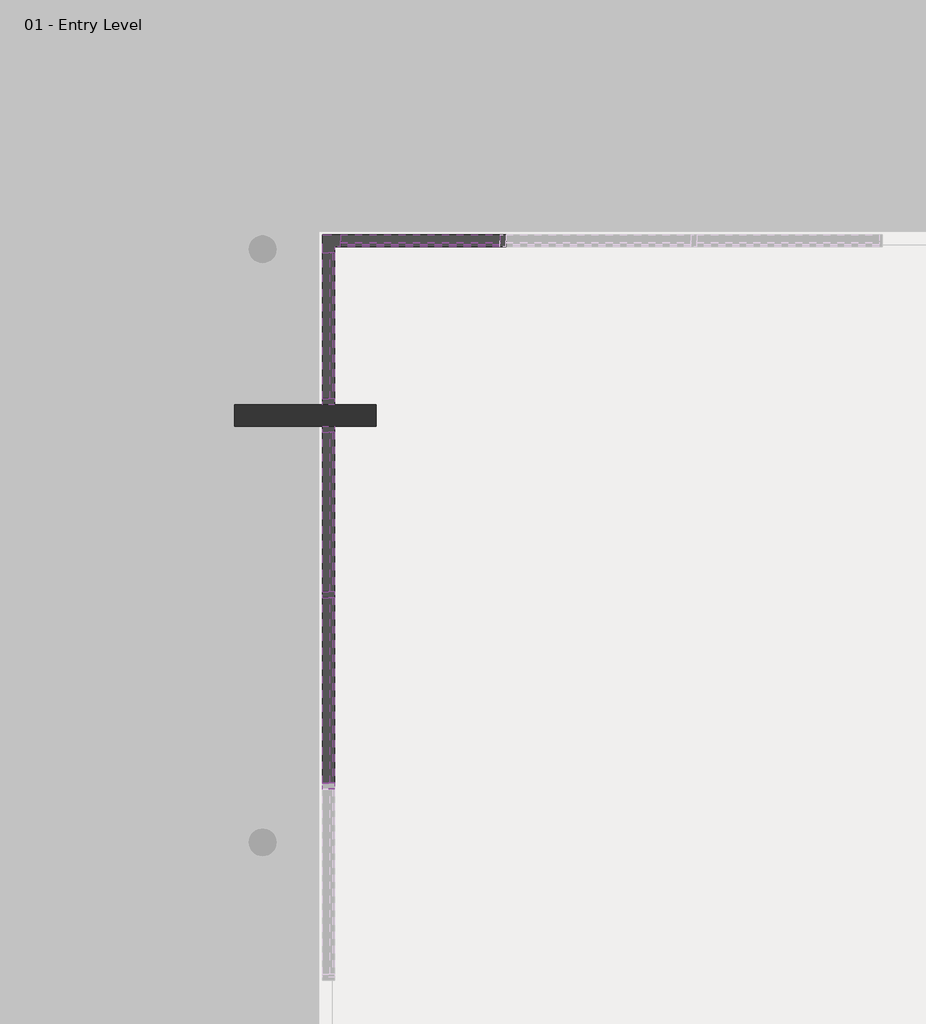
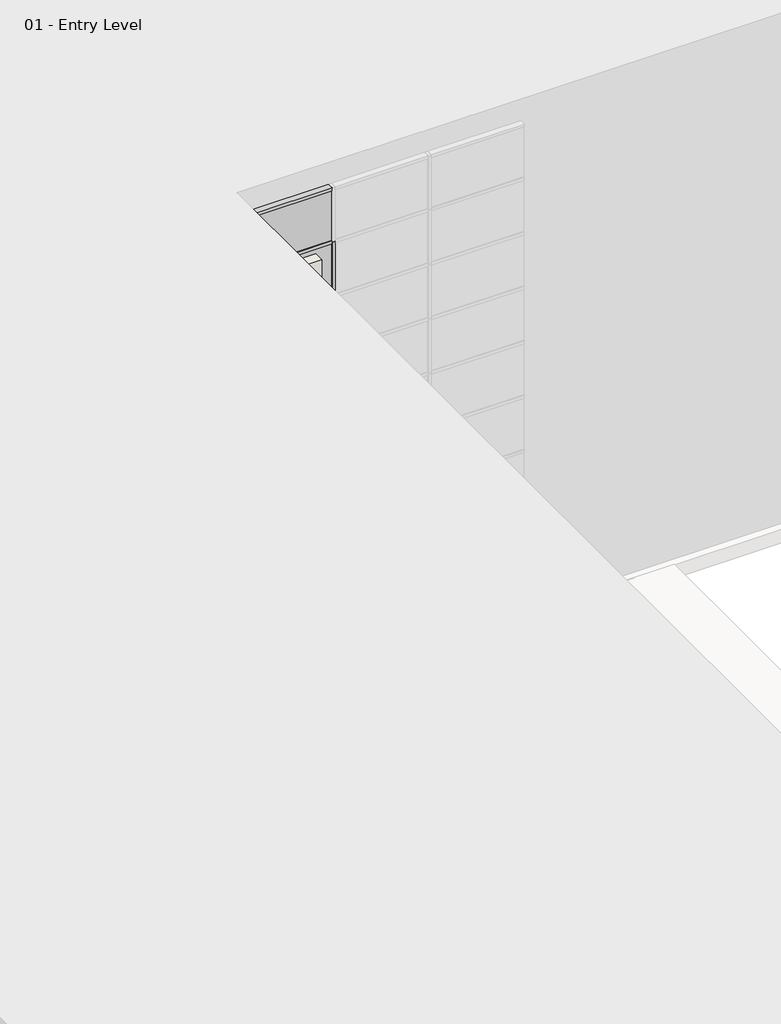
# One storey, part 25 of 34: 92 members, 36 plates, 1 wall.
"""IFC4 building model written with IfcOpenShell, lengths in millimetres."""

from ifc_helpers import new_model, si_unit, origin, origin_with_axes, place, context, project, spatial, polyline, outline, extrude, transform, mapped, element, save
from components import member_863be36e, member_2b49869a, member_75074519, member_391b434c, member_9e90ae50, member_515a5600, member_9fe7059d, member_fedd83b6, member_c1df12fd, system_panel_glazed_1b9d6098, system_panel_glazed_70da479d, system_panel_glazed_379c68fb, system_panel_glazed_1c1023c8, system_panel_glazed_2f1fb611, system_panel_glazed_7e97f2aa

model = new_model("IFC4")

# Units and contexts
model_context = context("Model", 3, world=origin())
ifc_project = project(units=[si_unit("LENGTHUNIT", "METRE", prefix="MILLI")], contexts=[model_context])

# Site, building, storey
site = spatial("IfcSite", under=ifc_project)
building = spatial("IfcBuilding", under=site)
storey = spatial("IfcBuildingStorey", under=building, Name="01 - Entry Level", Elevation=0.0)

# Members
placement = place(None, origin())
member_shape = member_863be36e(model_context)
element("IfcMember", 1, ObjectType="L Corner Mullion : 5\" x 5\" Corner", at=placement, inside=storey, context=model_context, shape_type="MappedRepresentation", body=[
    mapped(member_shape, transform((17184.0207476, 42751.3, 10972.8), x_axis=(-1.0, 0.0, 0.0), y_axis=(0.0, -1.0, 0.0), z_axis=(0.0, 0.0, 1.0))),
])
element("IfcMember", 2, ObjectType="L Corner Mullion : 5\" x 5\" Corner", at=placement, inside=storey, context=model_context, shape_type="MappedRepresentation", body=[
    mapped(member_shape, transform((17184.0207476, 42751.3, 1219.2), x_axis=(-1.0, 0.0, 0.0), y_axis=(0.0, -1.0, 0.0), z_axis=(0.0, 0.0, 1.0))),
])
element("IfcMember", 3, ObjectType="L Corner Mullion : 5\" x 5\" Corner", at=placement, inside=storey, context=model_context, shape_type="MappedRepresentation", body=[
    mapped(member_shape, transform((17184.0207476, 42751.3, 2438.4), x_axis=(-1.0, 0.0, 0.0), y_axis=(0.0, -1.0, 0.0), z_axis=(0.0, 0.0, 1.0))),
])
element("IfcMember", 4, ObjectType="L Corner Mullion : 5\" x 5\" Corner", at=placement, inside=storey, context=model_context, shape_type="MappedRepresentation", body=[
    mapped(member_shape, transform((17184.0207476, 42751.3, 3657.6), x_axis=(-1.0, 0.0, 0.0), y_axis=(0.0, -1.0, 0.0), z_axis=(0.0, 0.0, 1.0))),
])
element("IfcMember", 5, ObjectType="L Corner Mullion : 5\" x 5\" Corner", at=placement, inside=storey, context=model_context, shape_type="MappedRepresentation", body=[
    mapped(member_shape, transform((17184.0207476, 42751.3, 4876.8), x_axis=(-1.0, 0.0, 0.0), y_axis=(0.0, -1.0, 0.0), z_axis=(0.0, 0.0, 1.0))),
])
element("IfcMember", 6, ObjectType="L Corner Mullion : 5\" x 5\" Corner", at=placement, inside=storey, context=model_context, shape_type="MappedRepresentation", body=[
    mapped(member_shape, transform((17184.0207476, 42751.3, 6096.0), x_axis=(-1.0, 0.0, 0.0), y_axis=(0.0, -1.0, 0.0), z_axis=(0.0, 0.0, 1.0))),
])
element("IfcMember", 7, ObjectType="L Corner Mullion : 5\" x 5\" Corner", at=placement, inside=storey, context=model_context, shape_type="MappedRepresentation", body=[
    mapped(member_shape, transform((17184.0207476, 42751.3, 7315.2), x_axis=(-1.0, 0.0, 0.0), y_axis=(0.0, -1.0, 0.0), z_axis=(0.0, 0.0, 1.0))),
])
element("IfcMember", 8, ObjectType="L Corner Mullion : 5\" x 5\" Corner", at=placement, inside=storey, context=model_context, shape_type="MappedRepresentation", body=[
    mapped(member_shape, transform((17184.0207476, 42751.3, 8534.4), x_axis=(-1.0, 0.0, 0.0), y_axis=(0.0, -1.0, 0.0), z_axis=(0.0, 0.0, 1.0))),
])
element("IfcMember", 9, ObjectType="L Corner Mullion : 5\" x 5\" Corner", at=placement, inside=storey, context=model_context, shape_type="MappedRepresentation", body=[
    mapped(member_shape, transform((17184.0207476, 42751.3, 9753.6), x_axis=(-1.0, 0.0, 0.0), y_axis=(0.0, -1.0, 0.0), z_axis=(0.0, 0.0, 1.0))),
])
member_2_shape = member_2b49869a(model_context)
element("IfcMember", 10, ObjectType="Rectangular Mullion : 2.5\" x 5\" rectangular", at=placement, inside=storey, context=model_context, shape_type="MappedRepresentation", body=[
    mapped(member_2_shape, transform((17184.0207476, 36960.1, 9753.6), x_axis=(0.0, 1.0, 0.0), y_axis=(1.0, 0.0, 0.0), z_axis=(0.0, 0.0, -1.0))),
])
element("IfcMember", 11, ObjectType="Rectangular Mullion : 2.5\" x 5\" rectangular", at=placement, inside=storey, context=model_context, shape_type="MappedRepresentation", body=[
    mapped(member_2_shape, transform((17184.0207476, 38992.1, 9753.6), x_axis=(0.0, 1.0, 0.0), y_axis=(1.0, 0.0, 0.0), z_axis=(0.0, 0.0, -1.0))),
])
member_3_shape = member_75074519(model_context)
element("IfcMember", 12, ObjectType="Rectangular Mullion : 2.5\" x 5\" rectangular", at=placement, inside=storey, context=model_context, shape_type="MappedRepresentation", body=[
    mapped(member_3_shape, transform((17184.0207476, 41011.4, 10972.8), x_axis=(0.0, -1.0, 0.0), y_axis=(1.0, 0.0, 0.0), z_axis=(0.0, 0.0, 1.0))),
])
element("IfcMember", 13, ObjectType="Rectangular Mullion : 2.5\" x 5\" rectangular", at=placement, inside=storey, context=model_context, shape_type="MappedRepresentation", body=[
    mapped(member_3_shape, transform((17184.0207476, 40782.8, 9753.6), x_axis=(0.0, 1.0, 0.0), y_axis=(1.0, 0.0, 0.0), z_axis=(0.0, 0.0, -1.0))),
])
member_4_shape = member_391b434c(model_context)
element("IfcMember", 14, ObjectType="Rectangular Mullion : 2.5\" x 5\" rectangular", at=placement, inside=storey, context=model_context, shape_type="MappedRepresentation", body=[
    mapped(member_4_shape, transform((17184.0207476, 38960.35, 10972.8), x_axis=(0.0, 0.0, 1.0), y_axis=(1.0, 0.0, 0.0), z_axis=(0.0, 1.0, 0.0))),
])
element("IfcMember", 15, ObjectType="Rectangular Mullion : 2.5\" x 5\" rectangular", at=placement, inside=storey, context=model_context, shape_type="MappedRepresentation", body=[
    mapped(member_4_shape, transform((19069.9707476, 42751.3, 0.0), x_axis=(0.0, 0.0, -1.0), y_axis=(0.0, -1.0, 0.0), z_axis=(-1.0, 0.0, 0.0))),
])
member_5_shape = member_9e90ae50(model_context)
element("IfcMember", 16, ObjectType="Rectangular Mullion : 2.5\" x 5\" rectangular", at=placement, inside=storey, context=model_context, shape_type="MappedRepresentation", body=[
    mapped(member_5_shape, transform((17184.0207476, 38960.35, 1219.2), x_axis=(0.0, 0.0, 1.0), y_axis=(1.0, 0.0, 0.0), z_axis=(0.0, 1.0, 0.0))),
])
element("IfcMember", 17, ObjectType="Rectangular Mullion : 2.5\" x 5\" rectangular", at=placement, inside=storey, context=model_context, shape_type="MappedRepresentation", body=[
    mapped(member_5_shape, transform((17184.0207476, 38960.35, 2438.4), x_axis=(0.0, 0.0, 1.0), y_axis=(1.0, 0.0, 0.0), z_axis=(0.0, 1.0, 0.0))),
])
element("IfcMember", 18, ObjectType="Rectangular Mullion : 2.5\" x 5\" rectangular", at=placement, inside=storey, context=model_context, shape_type="MappedRepresentation", body=[
    mapped(member_5_shape, transform((17184.0207476, 38960.35, 3657.6), x_axis=(0.0, 0.0, 1.0), y_axis=(1.0, 0.0, 0.0), z_axis=(0.0, 1.0, 0.0))),
])
element("IfcMember", 19, ObjectType="Rectangular Mullion : 2.5\" x 5\" rectangular", at=placement, inside=storey, context=model_context, shape_type="MappedRepresentation", body=[
    mapped(member_5_shape, transform((17184.0207476, 38960.35, 4876.8), x_axis=(0.0, 0.0, 1.0), y_axis=(1.0, 0.0, 0.0), z_axis=(0.0, 1.0, 0.0))),
])
element("IfcMember", 20, ObjectType="Rectangular Mullion : 2.5\" x 5\" rectangular", at=placement, inside=storey, context=model_context, shape_type="MappedRepresentation", body=[
    mapped(member_5_shape, transform((17184.0207476, 38960.35, 6096.0), x_axis=(0.0, 0.0, 1.0), y_axis=(1.0, 0.0, 0.0), z_axis=(0.0, 1.0, 0.0))),
])
element("IfcMember", 21, ObjectType="Rectangular Mullion : 2.5\" x 5\" rectangular", at=placement, inside=storey, context=model_context, shape_type="MappedRepresentation", body=[
    mapped(member_5_shape, transform((17184.0207476, 38960.35, 7315.2), x_axis=(0.0, 0.0, 1.0), y_axis=(1.0, 0.0, 0.0), z_axis=(0.0, 1.0, 0.0))),
])
element("IfcMember", 22, ObjectType="Rectangular Mullion : 2.5\" x 5\" rectangular", at=placement, inside=storey, context=model_context, shape_type="MappedRepresentation", body=[
    mapped(member_5_shape, transform((17184.0207476, 38960.35, 8534.4), x_axis=(0.0, 0.0, 1.0), y_axis=(1.0, 0.0, 0.0), z_axis=(0.0, 1.0, 0.0))),
])
element("IfcMember", 23, ObjectType="Rectangular Mullion : 2.5\" x 5\" rectangular", at=placement, inside=storey, context=model_context, shape_type="MappedRepresentation", body=[
    mapped(member_5_shape, transform((17184.0207476, 38960.35, 9753.6), x_axis=(0.0, 0.0, 1.0), y_axis=(1.0, 0.0, 0.0), z_axis=(0.0, 1.0, 0.0))),
])
element("IfcMember", 24, ObjectType="Rectangular Mullion : 2.5\" x 5\" rectangular", at=placement, inside=storey, context=model_context, shape_type="MappedRepresentation", body=[
    mapped(member_2_shape, transform((19038.2207476, 42751.3, 0.0), x_axis=(1.0, 0.0, 0.0), y_axis=(0.0, -1.0, 0.0), z_axis=(0.0, 0.0, -1.0))),
])
element("IfcMember", 25, ObjectType="Rectangular Mullion : 2.5\" x 5\" rectangular", at=placement, inside=storey, context=model_context, shape_type="MappedRepresentation", body=[
    mapped(member_2_shape, transform((17184.0207476, 38992.1, 0.0), x_axis=(0.0, 1.0, 0.0), y_axis=(1.0, 0.0, 0.0), z_axis=(0.0, 0.0, -1.0))),
])
element("IfcMember", 26, ObjectType="Rectangular Mullion : 2.5\" x 5\" rectangular", at=placement, inside=storey, context=model_context, shape_type="MappedRepresentation", body=[
    mapped(member_2_shape, transform((19038.2207476, 42751.3, 1219.2), x_axis=(1.0, 0.0, 0.0), y_axis=(0.0, -1.0, 0.0), z_axis=(0.0, 0.0, -1.0))),
])
element("IfcMember", 27, ObjectType="Rectangular Mullion : 2.5\" x 5\" rectangular", at=placement, inside=storey, context=model_context, shape_type="MappedRepresentation", body=[
    mapped(member_2_shape, transform((19038.2207476, 42751.3, 2438.4), x_axis=(1.0, 0.0, 0.0), y_axis=(0.0, -1.0, 0.0), z_axis=(0.0, 0.0, -1.0))),
])
element("IfcMember", 28, ObjectType="Rectangular Mullion : 2.5\" x 5\" rectangular", at=placement, inside=storey, context=model_context, shape_type="MappedRepresentation", body=[
    mapped(member_2_shape, transform((19038.2207476, 42751.3, 3657.6), x_axis=(1.0, 0.0, 0.0), y_axis=(0.0, -1.0, 0.0), z_axis=(0.0, 0.0, -1.0))),
])
element("IfcMember", 29, ObjectType="Rectangular Mullion : 2.5\" x 5\" rectangular", at=placement, inside=storey, context=model_context, shape_type="MappedRepresentation", body=[
    mapped(member_2_shape, transform((19038.2207476, 42751.3, 4876.8), x_axis=(1.0, 0.0, 0.0), y_axis=(0.0, -1.0, 0.0), z_axis=(0.0, 0.0, -1.0))),
])
element("IfcMember", 30, ObjectType="Rectangular Mullion : 2.5\" x 5\" rectangular", at=placement, inside=storey, context=model_context, shape_type="MappedRepresentation", body=[
    mapped(member_2_shape, transform((19038.2207476, 42751.3, 6096.0), x_axis=(1.0, 0.0, 0.0), y_axis=(0.0, -1.0, 0.0), z_axis=(0.0, 0.0, -1.0))),
])
element("IfcMember", 31, ObjectType="Rectangular Mullion : 2.5\" x 5\" rectangular", at=placement, inside=storey, context=model_context, shape_type="MappedRepresentation", body=[
    mapped(member_2_shape, transform((19038.2207476, 42751.3, 7315.2), x_axis=(1.0, 0.0, 0.0), y_axis=(0.0, -1.0, 0.0), z_axis=(0.0, 0.0, -1.0))),
])
element("IfcMember", 32, ObjectType="Rectangular Mullion : 2.5\" x 5\" rectangular", at=placement, inside=storey, context=model_context, shape_type="MappedRepresentation", body=[
    mapped(member_2_shape, transform((19038.2207476, 42751.3, 8534.4), x_axis=(1.0, 0.0, 0.0), y_axis=(0.0, -1.0, 0.0), z_axis=(0.0, 0.0, -1.0))),
])
element("IfcMember", 33, ObjectType="Rectangular Mullion : 2.5\" x 5\" rectangular", at=placement, inside=storey, context=model_context, shape_type="MappedRepresentation", body=[
    mapped(member_2_shape, transform((17184.0207476, 36960.1, 1219.2), x_axis=(0.0, 1.0, 0.0), y_axis=(1.0, 0.0, 0.0), z_axis=(0.0, 0.0, -1.0))),
])
element("IfcMember", 34, ObjectType="Rectangular Mullion : 2.5\" x 5\" rectangular", at=placement, inside=storey, context=model_context, shape_type="MappedRepresentation", body=[
    mapped(member_2_shape, transform((17184.0207476, 38992.1, 1219.2), x_axis=(0.0, 1.0, 0.0), y_axis=(1.0, 0.0, 0.0), z_axis=(0.0, 0.0, -1.0))),
])
element("IfcMember", 35, ObjectType="Rectangular Mullion : 2.5\" x 5\" rectangular", at=placement, inside=storey, context=model_context, shape_type="MappedRepresentation", body=[
    mapped(member_2_shape, transform((17184.0207476, 36960.1, 2438.4), x_axis=(0.0, 1.0, 0.0), y_axis=(1.0, 0.0, 0.0), z_axis=(0.0, 0.0, -1.0))),
])
element("IfcMember", 36, ObjectType="Rectangular Mullion : 2.5\" x 5\" rectangular", at=placement, inside=storey, context=model_context, shape_type="MappedRepresentation", body=[
    mapped(member_2_shape, transform((17184.0207476, 38992.1, 2438.4), x_axis=(0.0, 1.0, 0.0), y_axis=(1.0, 0.0, 0.0), z_axis=(0.0, 0.0, -1.0))),
])
element("IfcMember", 37, ObjectType="Rectangular Mullion : 2.5\" x 5\" rectangular", at=placement, inside=storey, context=model_context, shape_type="MappedRepresentation", body=[
    mapped(member_2_shape, transform((17184.0207476, 36960.1, 3657.6), x_axis=(0.0, 1.0, 0.0), y_axis=(1.0, 0.0, 0.0), z_axis=(0.0, 0.0, -1.0))),
])
element("IfcMember", 38, ObjectType="Rectangular Mullion : 2.5\" x 5\" rectangular", at=placement, inside=storey, context=model_context, shape_type="MappedRepresentation", body=[
    mapped(member_2_shape, transform((17184.0207476, 38992.1, 3657.6), x_axis=(0.0, 1.0, 0.0), y_axis=(1.0, 0.0, 0.0), z_axis=(0.0, 0.0, -1.0))),
])
element("IfcMember", 39, ObjectType="Rectangular Mullion : 2.5\" x 5\" rectangular", at=placement, inside=storey, context=model_context, shape_type="MappedRepresentation", body=[
    mapped(member_2_shape, transform((17184.0207476, 36960.1, 4876.8), x_axis=(0.0, 1.0, 0.0), y_axis=(1.0, 0.0, 0.0), z_axis=(0.0, 0.0, -1.0))),
])
element("IfcMember", 40, ObjectType="Rectangular Mullion : 2.5\" x 5\" rectangular", at=placement, inside=storey, context=model_context, shape_type="MappedRepresentation", body=[
    mapped(member_2_shape, transform((17184.0207476, 38992.1, 4876.8), x_axis=(0.0, 1.0, 0.0), y_axis=(1.0, 0.0, 0.0), z_axis=(0.0, 0.0, -1.0))),
])
element("IfcMember", 41, ObjectType="Rectangular Mullion : 2.5\" x 5\" rectangular", at=placement, inside=storey, context=model_context, shape_type="MappedRepresentation", body=[
    mapped(member_2_shape, transform((17184.0207476, 36960.1, 6096.0), x_axis=(0.0, 1.0, 0.0), y_axis=(1.0, 0.0, 0.0), z_axis=(0.0, 0.0, -1.0))),
])
element("IfcMember", 42, ObjectType="Rectangular Mullion : 2.5\" x 5\" rectangular", at=placement, inside=storey, context=model_context, shape_type="MappedRepresentation", body=[
    mapped(member_2_shape, transform((17184.0207476, 38992.1, 6096.0), x_axis=(0.0, 1.0, 0.0), y_axis=(1.0, 0.0, 0.0), z_axis=(0.0, 0.0, -1.0))),
])
element("IfcMember", 43, ObjectType="Rectangular Mullion : 2.5\" x 5\" rectangular", at=placement, inside=storey, context=model_context, shape_type="MappedRepresentation", body=[
    mapped(member_2_shape, transform((17184.0207476, 36960.1, 7315.2), x_axis=(0.0, 1.0, 0.0), y_axis=(1.0, 0.0, 0.0), z_axis=(0.0, 0.0, -1.0))),
])
element("IfcMember", 44, ObjectType="Rectangular Mullion : 2.5\" x 5\" rectangular", at=placement, inside=storey, context=model_context, shape_type="MappedRepresentation", body=[
    mapped(member_2_shape, transform((17184.0207476, 38992.1, 7315.2), x_axis=(0.0, 1.0, 0.0), y_axis=(1.0, 0.0, 0.0), z_axis=(0.0, 0.0, -1.0))),
])
element("IfcMember", 45, ObjectType="Rectangular Mullion : 2.5\" x 5\" rectangular", at=placement, inside=storey, context=model_context, shape_type="MappedRepresentation", body=[
    mapped(member_2_shape, transform((17184.0207476, 36960.1, 8534.4), x_axis=(0.0, 1.0, 0.0), y_axis=(1.0, 0.0, 0.0), z_axis=(0.0, 0.0, -1.0))),
])
element("IfcMember", 46, ObjectType="Rectangular Mullion : 2.5\" x 5\" rectangular", at=placement, inside=storey, context=model_context, shape_type="MappedRepresentation", body=[
    mapped(member_2_shape, transform((17184.0207476, 38992.1, 8534.4), x_axis=(0.0, 1.0, 0.0), y_axis=(1.0, 0.0, 0.0), z_axis=(0.0, 0.0, -1.0))),
])
element("IfcMember", 47, ObjectType="Rectangular Mullion : 2.5\" x 5\" rectangular", at=placement, inside=storey, context=model_context, shape_type="MappedRepresentation", body=[
    mapped(member_3_shape, transform((17184.0207476, 40782.8, 0.0), x_axis=(0.0, 1.0, 0.0), y_axis=(1.0, 0.0, 0.0), z_axis=(0.0, 0.0, -1.0))),
])
element("IfcMember", 48, ObjectType="Rectangular Mullion : 2.5\" x 5\" rectangular", at=placement, inside=storey, context=model_context, shape_type="MappedRepresentation", body=[
    mapped(member_3_shape, transform((17184.0207476, 40782.8, 1219.2), x_axis=(0.0, 1.0, 0.0), y_axis=(1.0, 0.0, 0.0), z_axis=(0.0, 0.0, -1.0))),
])
element("IfcMember", 49, ObjectType="Rectangular Mullion : 2.5\" x 5\" rectangular", at=placement, inside=storey, context=model_context, shape_type="MappedRepresentation", body=[
    mapped(member_3_shape, transform((17184.0207476, 40782.8, 2438.4), x_axis=(0.0, 1.0, 0.0), y_axis=(1.0, 0.0, 0.0), z_axis=(0.0, 0.0, -1.0))),
])
element("IfcMember", 50, ObjectType="Rectangular Mullion : 2.5\" x 5\" rectangular", at=placement, inside=storey, context=model_context, shape_type="MappedRepresentation", body=[
    mapped(member_3_shape, transform((17184.0207476, 40782.8, 3657.6), x_axis=(0.0, 1.0, 0.0), y_axis=(1.0, 0.0, 0.0), z_axis=(0.0, 0.0, -1.0))),
])
element("IfcMember", 51, ObjectType="Rectangular Mullion : 2.5\" x 5\" rectangular", at=placement, inside=storey, context=model_context, shape_type="MappedRepresentation", body=[
    mapped(member_3_shape, transform((17184.0207476, 40782.8, 4876.8), x_axis=(0.0, 1.0, 0.0), y_axis=(1.0, 0.0, 0.0), z_axis=(0.0, 0.0, -1.0))),
])
element("IfcMember", 52, ObjectType="Rectangular Mullion : 2.5\" x 5\" rectangular", at=placement, inside=storey, context=model_context, shape_type="MappedRepresentation", body=[
    mapped(member_3_shape, transform((17184.0207476, 40782.8, 6096.0), x_axis=(0.0, 1.0, 0.0), y_axis=(1.0, 0.0, 0.0), z_axis=(0.0, 0.0, -1.0))),
])
element("IfcMember", 53, ObjectType="Rectangular Mullion : 2.5\" x 5\" rectangular", at=placement, inside=storey, context=model_context, shape_type="MappedRepresentation", body=[
    mapped(member_3_shape, transform((17184.0207476, 40782.8, 7315.2), x_axis=(0.0, 1.0, 0.0), y_axis=(1.0, 0.0, 0.0), z_axis=(0.0, 0.0, -1.0))),
])
element("IfcMember", 54, ObjectType="Rectangular Mullion : 2.5\" x 5\" rectangular", at=placement, inside=storey, context=model_context, shape_type="MappedRepresentation", body=[
    mapped(member_3_shape, transform((17184.0207476, 40782.8, 8534.4), x_axis=(0.0, 1.0, 0.0), y_axis=(1.0, 0.0, 0.0), z_axis=(0.0, 0.0, -1.0))),
])
element("IfcMember", 55, ObjectType="Rectangular Mullion : 2.5\" x 5\" rectangular", at=placement, inside=storey, context=model_context, shape_type="MappedRepresentation", body=[
    mapped(member_3_shape, transform((17184.0207476, 41011.4, 1219.2), x_axis=(0.0, -1.0, 0.0), y_axis=(1.0, 0.0, 0.0), z_axis=(0.0, 0.0, 1.0))),
])
element("IfcMember", 56, ObjectType="Rectangular Mullion : 2.5\" x 5\" rectangular", at=placement, inside=storey, context=model_context, shape_type="MappedRepresentation", body=[
    mapped(member_3_shape, transform((17184.0207476, 41011.4, 2438.4), x_axis=(0.0, -1.0, 0.0), y_axis=(1.0, 0.0, 0.0), z_axis=(0.0, 0.0, 1.0))),
])
element("IfcMember", 57, ObjectType="Rectangular Mullion : 2.5\" x 5\" rectangular", at=placement, inside=storey, context=model_context, shape_type="MappedRepresentation", body=[
    mapped(member_3_shape, transform((17184.0207476, 41011.4, 3657.6), x_axis=(0.0, -1.0, 0.0), y_axis=(1.0, 0.0, 0.0), z_axis=(0.0, 0.0, 1.0))),
])
element("IfcMember", 58, ObjectType="Rectangular Mullion : 2.5\" x 5\" rectangular", at=placement, inside=storey, context=model_context, shape_type="MappedRepresentation", body=[
    mapped(member_3_shape, transform((17184.0207476, 41011.4, 4876.8), x_axis=(0.0, -1.0, 0.0), y_axis=(1.0, 0.0, 0.0), z_axis=(0.0, 0.0, 1.0))),
])
element("IfcMember", 59, ObjectType="Rectangular Mullion : 2.5\" x 5\" rectangular", at=placement, inside=storey, context=model_context, shape_type="MappedRepresentation", body=[
    mapped(member_3_shape, transform((17184.0207476, 41011.4, 6096.0), x_axis=(0.0, -1.0, 0.0), y_axis=(1.0, 0.0, 0.0), z_axis=(0.0, 0.0, 1.0))),
])
element("IfcMember", 60, ObjectType="Rectangular Mullion : 2.5\" x 5\" rectangular", at=placement, inside=storey, context=model_context, shape_type="MappedRepresentation", body=[
    mapped(member_3_shape, transform((17184.0207476, 41011.4, 7315.2), x_axis=(0.0, -1.0, 0.0), y_axis=(1.0, 0.0, 0.0), z_axis=(0.0, 0.0, 1.0))),
])
element("IfcMember", 61, ObjectType="Rectangular Mullion : 2.5\" x 5\" rectangular", at=placement, inside=storey, context=model_context, shape_type="MappedRepresentation", body=[
    mapped(member_3_shape, transform((17184.0207476, 41011.4, 8534.4), x_axis=(0.0, -1.0, 0.0), y_axis=(1.0, 0.0, 0.0), z_axis=(0.0, 0.0, 1.0))),
])
element("IfcMember", 62, ObjectType="Rectangular Mullion : 2.5\" x 5\" rectangular", at=placement, inside=storey, context=model_context, shape_type="MappedRepresentation", body=[
    mapped(member_3_shape, transform((17184.0207476, 41011.4, 9753.6), x_axis=(0.0, -1.0, 0.0), y_axis=(1.0, 0.0, 0.0), z_axis=(0.0, 0.0, 1.0))),
])
member_6_shape = member_515a5600(model_context)
element("IfcMember", 63, ObjectType="Rectangular Mullion : 2.5\" x 5\" rectangular", at=placement, inside=storey, context=model_context, shape_type="MappedRepresentation", body=[
    mapped(member_6_shape, transform((17184.0207476, 40719.3, 10972.8), x_axis=(0.0, 0.0, 1.0), y_axis=(1.0, 0.0, 0.0), z_axis=(0.0, 1.0, 0.0))),
])
element("IfcMember", 64, ObjectType="Rectangular Mullion : 2.5\" x 5\" rectangular", at=placement, inside=storey, context=model_context, shape_type="MappedRepresentation", body=[
    mapped(member_6_shape, transform((19006.4707476, 42751.3, 10972.8), x_axis=(0.0, 0.0, 1.0), y_axis=(0.0, -1.0, 0.0), z_axis=(1.0, 0.0, 0.0))),
])
element("IfcMember", 65, ObjectType="Rectangular Mullion : 2.5\" x 5\" rectangular", at=placement, inside=storey, context=model_context, shape_type="MappedRepresentation", body=[
    mapped(member_6_shape, transform((17311.0207476, 42751.3, 0.0), x_axis=(0.0, 0.0, -1.0), y_axis=(0.0, -1.0, 0.0), z_axis=(-1.0, 0.0, 0.0))),
])
element("IfcMember", 66, ObjectType="Rectangular Mullion : 2.5\" x 5\" rectangular", at=placement, inside=storey, context=model_context, shape_type="MappedRepresentation", body=[
    mapped(member_6_shape, transform((17184.0207476, 39023.85, 0.0), x_axis=(0.0, 0.0, -1.0), y_axis=(1.0, 0.0, 0.0), z_axis=(0.0, -1.0, 0.0))),
])
member_7_shape = member_9fe7059d(model_context)
element("IfcMember", 67, ObjectType="Rectangular Mullion : 2.5\" x 5\" rectangular", at=placement, inside=storey, context=model_context, shape_type="MappedRepresentation", body=[
    mapped(member_7_shape, transform((19006.4707476, 42751.3, 1219.2), x_axis=(0.0, 0.0, 1.0), y_axis=(0.0, -1.0, 0.0), z_axis=(1.0, 0.0, 0.0))),
])
element("IfcMember", 68, ObjectType="Rectangular Mullion : 2.5\" x 5\" rectangular", at=placement, inside=storey, context=model_context, shape_type="MappedRepresentation", body=[
    mapped(member_7_shape, transform((19006.4707476, 42751.3, 2438.4), x_axis=(0.0, 0.0, 1.0), y_axis=(0.0, -1.0, 0.0), z_axis=(1.0, 0.0, 0.0))),
])
element("IfcMember", 69, ObjectType="Rectangular Mullion : 2.5\" x 5\" rectangular", at=placement, inside=storey, context=model_context, shape_type="MappedRepresentation", body=[
    mapped(member_7_shape, transform((19006.4707476, 42751.3, 3657.6), x_axis=(0.0, 0.0, 1.0), y_axis=(0.0, -1.0, 0.0), z_axis=(1.0, 0.0, 0.0))),
])
element("IfcMember", 70, ObjectType="Rectangular Mullion : 2.5\" x 5\" rectangular", at=placement, inside=storey, context=model_context, shape_type="MappedRepresentation", body=[
    mapped(member_7_shape, transform((19006.4707476, 42751.3, 4876.8), x_axis=(0.0, 0.0, 1.0), y_axis=(0.0, -1.0, 0.0), z_axis=(1.0, 0.0, 0.0))),
])
element("IfcMember", 71, ObjectType="Rectangular Mullion : 2.5\" x 5\" rectangular", at=placement, inside=storey, context=model_context, shape_type="MappedRepresentation", body=[
    mapped(member_7_shape, transform((19006.4707476, 42751.3, 6096.0), x_axis=(0.0, 0.0, 1.0), y_axis=(0.0, -1.0, 0.0), z_axis=(1.0, 0.0, 0.0))),
])
element("IfcMember", 72, ObjectType="Rectangular Mullion : 2.5\" x 5\" rectangular", at=placement, inside=storey, context=model_context, shape_type="MappedRepresentation", body=[
    mapped(member_7_shape, transform((19006.4707476, 42751.3, 7315.2), x_axis=(0.0, 0.0, 1.0), y_axis=(0.0, -1.0, 0.0), z_axis=(1.0, 0.0, 0.0))),
])
element("IfcMember", 73, ObjectType="Rectangular Mullion : 2.5\" x 5\" rectangular", at=placement, inside=storey, context=model_context, shape_type="MappedRepresentation", body=[
    mapped(member_7_shape, transform((19006.4707476, 42751.3, 8534.4), x_axis=(0.0, 0.0, 1.0), y_axis=(0.0, -1.0, 0.0), z_axis=(1.0, 0.0, 0.0))),
])
element("IfcMember", 74, ObjectType="Rectangular Mullion : 2.5\" x 5\" rectangular", at=placement, inside=storey, context=model_context, shape_type="MappedRepresentation", body=[
    mapped(member_7_shape, transform((19006.4707476, 42751.3, 9753.6), x_axis=(0.0, 0.0, 1.0), y_axis=(0.0, -1.0, 0.0), z_axis=(1.0, 0.0, 0.0))),
])
element("IfcMember", 75, ObjectType="Rectangular Mullion : 2.5\" x 5\" rectangular", at=placement, inside=storey, context=model_context, shape_type="MappedRepresentation", body=[
    mapped(member_7_shape, transform((17184.0207476, 40719.3, 1219.2), x_axis=(0.0, 0.0, 1.0), y_axis=(1.0, 0.0, 0.0), z_axis=(0.0, 1.0, 0.0))),
])
element("IfcMember", 76, ObjectType="Rectangular Mullion : 2.5\" x 5\" rectangular", at=placement, inside=storey, context=model_context, shape_type="MappedRepresentation", body=[
    mapped(member_7_shape, transform((17184.0207476, 40719.3, 2438.4), x_axis=(0.0, 0.0, 1.0), y_axis=(1.0, 0.0, 0.0), z_axis=(0.0, 1.0, 0.0))),
])
element("IfcMember", 77, ObjectType="Rectangular Mullion : 2.5\" x 5\" rectangular", at=placement, inside=storey, context=model_context, shape_type="MappedRepresentation", body=[
    mapped(member_7_shape, transform((17184.0207476, 40719.3, 3657.6), x_axis=(0.0, 0.0, 1.0), y_axis=(1.0, 0.0, 0.0), z_axis=(0.0, 1.0, 0.0))),
])
element("IfcMember", 78, ObjectType="Rectangular Mullion : 2.5\" x 5\" rectangular", at=placement, inside=storey, context=model_context, shape_type="MappedRepresentation", body=[
    mapped(member_7_shape, transform((17184.0207476, 40719.3, 4876.8), x_axis=(0.0, 0.0, 1.0), y_axis=(1.0, 0.0, 0.0), z_axis=(0.0, 1.0, 0.0))),
])
element("IfcMember", 79, ObjectType="Rectangular Mullion : 2.5\" x 5\" rectangular", at=placement, inside=storey, context=model_context, shape_type="MappedRepresentation", body=[
    mapped(member_7_shape, transform((17184.0207476, 40719.3, 6096.0), x_axis=(0.0, 0.0, 1.0), y_axis=(1.0, 0.0, 0.0), z_axis=(0.0, 1.0, 0.0))),
])
element("IfcMember", 80, ObjectType="Rectangular Mullion : 2.5\" x 5\" rectangular", at=placement, inside=storey, context=model_context, shape_type="MappedRepresentation", body=[
    mapped(member_7_shape, transform((17184.0207476, 40719.3, 7315.2), x_axis=(0.0, 0.0, 1.0), y_axis=(1.0, 0.0, 0.0), z_axis=(0.0, 1.0, 0.0))),
])
element("IfcMember", 81, ObjectType="Rectangular Mullion : 2.5\" x 5\" rectangular", at=placement, inside=storey, context=model_context, shape_type="MappedRepresentation", body=[
    mapped(member_7_shape, transform((17184.0207476, 40719.3, 8534.4), x_axis=(0.0, 0.0, 1.0), y_axis=(1.0, 0.0, 0.0), z_axis=(0.0, 1.0, 0.0))),
])
element("IfcMember", 82, ObjectType="Rectangular Mullion : 2.5\" x 5\" rectangular", at=placement, inside=storey, context=model_context, shape_type="MappedRepresentation", body=[
    mapped(member_7_shape, transform((17184.0207476, 40719.3, 9753.6), x_axis=(0.0, 0.0, 1.0), y_axis=(1.0, 0.0, 0.0), z_axis=(0.0, 1.0, 0.0))),
])
member_8_shape = member_fedd83b6(model_context)
element("IfcMember", 83, ObjectType="Rectangular Mullion : 2.5\" x 5\" rectangular", at=placement, inside=storey, context=model_context, shape_type="MappedRepresentation", body=[
    mapped(member_8_shape, transform((17184.0207476, 42624.3, 10972.8), x_axis=(0.0, 0.0, 1.0), y_axis=(1.0, 0.0, 0.0), z_axis=(0.0, 1.0, 0.0))),
])
element("IfcMember", 84, ObjectType="Rectangular Mullion : 2.5\" x 5\" rectangular", at=placement, inside=storey, context=model_context, shape_type="MappedRepresentation", body=[
    mapped(member_8_shape, transform((17184.0207476, 41074.9, 0.0), x_axis=(0.0, 0.0, -1.0), y_axis=(1.0, 0.0, 0.0), z_axis=(0.0, -1.0, 0.0))),
])
member_9_shape = member_c1df12fd(model_context)
element("IfcMember", 85, ObjectType="Rectangular Mullion : 2.5\" x 5\" rectangular", at=placement, inside=storey, context=model_context, shape_type="MappedRepresentation", body=[
    mapped(member_9_shape, transform((17184.0207476, 42624.3, 1219.2), x_axis=(0.0, 0.0, 1.0), y_axis=(1.0, 0.0, 0.0), z_axis=(0.0, 1.0, 0.0))),
])
element("IfcMember", 86, ObjectType="Rectangular Mullion : 2.5\" x 5\" rectangular", at=placement, inside=storey, context=model_context, shape_type="MappedRepresentation", body=[
    mapped(member_9_shape, transform((17184.0207476, 42624.3, 2438.4), x_axis=(0.0, 0.0, 1.0), y_axis=(1.0, 0.0, 0.0), z_axis=(0.0, 1.0, 0.0))),
])
element("IfcMember", 87, ObjectType="Rectangular Mullion : 2.5\" x 5\" rectangular", at=placement, inside=storey, context=model_context, shape_type="MappedRepresentation", body=[
    mapped(member_9_shape, transform((17184.0207476, 42624.3, 3657.6), x_axis=(0.0, 0.0, 1.0), y_axis=(1.0, 0.0, 0.0), z_axis=(0.0, 1.0, 0.0))),
])
element("IfcMember", 88, ObjectType="Rectangular Mullion : 2.5\" x 5\" rectangular", at=placement, inside=storey, context=model_context, shape_type="MappedRepresentation", body=[
    mapped(member_9_shape, transform((17184.0207476, 42624.3, 4876.8), x_axis=(0.0, 0.0, 1.0), y_axis=(1.0, 0.0, 0.0), z_axis=(0.0, 1.0, 0.0))),
])
element("IfcMember", 89, ObjectType="Rectangular Mullion : 2.5\" x 5\" rectangular", at=placement, inside=storey, context=model_context, shape_type="MappedRepresentation", body=[
    mapped(member_9_shape, transform((17184.0207476, 42624.3, 6096.0), x_axis=(0.0, 0.0, 1.0), y_axis=(1.0, 0.0, 0.0), z_axis=(0.0, 1.0, 0.0))),
])
element("IfcMember", 90, ObjectType="Rectangular Mullion : 2.5\" x 5\" rectangular", at=placement, inside=storey, context=model_context, shape_type="MappedRepresentation", body=[
    mapped(member_9_shape, transform((17184.0207476, 42624.3, 7315.2), x_axis=(0.0, 0.0, 1.0), y_axis=(1.0, 0.0, 0.0), z_axis=(0.0, 1.0, 0.0))),
])
element("IfcMember", 91, ObjectType="Rectangular Mullion : 2.5\" x 5\" rectangular", at=placement, inside=storey, context=model_context, shape_type="MappedRepresentation", body=[
    mapped(member_9_shape, transform((17184.0207476, 42624.3, 8534.4), x_axis=(0.0, 0.0, 1.0), y_axis=(1.0, 0.0, 0.0), z_axis=(0.0, 1.0, 0.0))),
])
element("IfcMember", 92, ObjectType="Rectangular Mullion : 2.5\" x 5\" rectangular", at=placement, inside=storey, context=model_context, shape_type="MappedRepresentation", body=[
    mapped(member_9_shape, transform((17184.0207476, 42624.3, 9753.6), x_axis=(0.0, 0.0, 1.0), y_axis=(1.0, 0.0, 0.0), z_axis=(0.0, 1.0, 0.0))),
])

# Plates
system_panel_glazed_shape = system_panel_glazed_1b9d6098(model_context)
element("IfcPlate", 93, ObjectType="System Panel : Glazed", at=placement, inside=storey, context=model_context, shape_type="MappedRepresentation", body=[
    mapped(system_panel_glazed_shape, transform((17184.0207476, 37976.1, 63.5), x_axis=(0.0, 1.0, 0.0), y_axis=(-1.0, 0.0, 0.0), z_axis=(0.0, 0.0, 1.0))),
])
element("IfcPlate", 94, ObjectType="System Panel : Glazed", at=placement, inside=storey, context=model_context, shape_type="MappedRepresentation", body=[
    mapped(system_panel_glazed_shape, transform((17184.0207476, 37976.1, 9785.35), x_axis=(0.0, 1.0, 0.0), y_axis=(-1.0, 0.0, 0.0), z_axis=(0.0, 0.0, 1.0))),
])
system_panel_glazed_2_shape = system_panel_glazed_70da479d(model_context)
element("IfcPlate", 95, ObjectType="System Panel : Glazed", at=placement, inside=storey, context=model_context, shape_type="MappedRepresentation", body=[
    mapped(system_panel_glazed_2_shape, transform((17184.0207476, 37976.1, 1250.95), x_axis=(0.0, 1.0, 0.0), y_axis=(-1.0, 0.0, 0.0), z_axis=(0.0, 0.0, 1.0))),
])
element("IfcPlate", 96, ObjectType="System Panel : Glazed", at=placement, inside=storey, context=model_context, shape_type="MappedRepresentation", body=[
    mapped(system_panel_glazed_2_shape, transform((17184.0207476, 37976.1, 2470.15), x_axis=(0.0, 1.0, 0.0), y_axis=(-1.0, 0.0, 0.0), z_axis=(0.0, 0.0, 1.0))),
])
element("IfcPlate", 97, ObjectType="System Panel : Glazed", at=placement, inside=storey, context=model_context, shape_type="MappedRepresentation", body=[
    mapped(system_panel_glazed_2_shape, transform((17184.0207476, 37976.1, 3689.35), x_axis=(0.0, 1.0, 0.0), y_axis=(-1.0, 0.0, 0.0), z_axis=(0.0, 0.0, 1.0))),
])
element("IfcPlate", 98, ObjectType="System Panel : Glazed", at=placement, inside=storey, context=model_context, shape_type="MappedRepresentation", body=[
    mapped(system_panel_glazed_2_shape, transform((17184.0207476, 37976.1, 4908.55), x_axis=(0.0, 1.0, 0.0), y_axis=(-1.0, 0.0, 0.0), z_axis=(0.0, 0.0, 1.0))),
])
element("IfcPlate", 99, ObjectType="System Panel : Glazed", at=placement, inside=storey, context=model_context, shape_type="MappedRepresentation", body=[
    mapped(system_panel_glazed_2_shape, transform((17184.0207476, 37976.1, 6127.75), x_axis=(0.0, 1.0, 0.0), y_axis=(-1.0, 0.0, 0.0), z_axis=(0.0, 0.0, 1.0))),
])
element("IfcPlate", 100, ObjectType="System Panel : Glazed", at=placement, inside=storey, context=model_context, shape_type="MappedRepresentation", body=[
    mapped(system_panel_glazed_2_shape, transform((17184.0207476, 37976.1, 7346.95), x_axis=(0.0, 1.0, 0.0), y_axis=(-1.0, 0.0, 0.0), z_axis=(0.0, 0.0, 1.0))),
])
element("IfcPlate", 101, ObjectType="System Panel : Glazed", at=placement, inside=storey, context=model_context, shape_type="MappedRepresentation", body=[
    mapped(system_panel_glazed_2_shape, transform((17184.0207476, 37976.1, 8566.15), x_axis=(0.0, 1.0, 0.0), y_axis=(-1.0, 0.0, 0.0), z_axis=(0.0, 0.0, 1.0))),
])
system_panel_glazed_3_shape = system_panel_glazed_379c68fb(model_context)
element("IfcPlate", 102, ObjectType="System Panel : Glazed", at=placement, inside=storey, context=model_context, shape_type="MappedRepresentation", body=[
    mapped(system_panel_glazed_3_shape, transform((18158.7457476, 42751.3, 63.5), x_axis=(1.0, 0.0, 0.0), y_axis=(0.0, 1.0, 0.0), z_axis=(0.0, 0.0, 1.0))),
])
element("IfcPlate", 103, ObjectType="System Panel : Glazed", at=placement, inside=storey, context=model_context, shape_type="MappedRepresentation", body=[
    mapped(system_panel_glazed_3_shape, transform((18158.7457476, 42751.3, 9785.35), x_axis=(1.0, 0.0, 0.0), y_axis=(0.0, 1.0, 0.0), z_axis=(0.0, 0.0, 1.0))),
])
element("IfcPlate", 104, ObjectType="System Panel : Glazed", at=placement, inside=storey, context=model_context, shape_type="MappedRepresentation", body=[
    mapped(system_panel_glazed_3_shape, transform((17184.0207476, 39871.575, 63.5), x_axis=(0.0, 1.0, 0.0), y_axis=(-1.0, 0.0, 0.0), z_axis=(0.0, 0.0, 1.0))),
])
element("IfcPlate", 105, ObjectType="System Panel : Glazed", at=placement, inside=storey, context=model_context, shape_type="MappedRepresentation", body=[
    mapped(system_panel_glazed_3_shape, transform((17184.0207476, 39871.575, 9785.35), x_axis=(0.0, 1.0, 0.0), y_axis=(-1.0, 0.0, 0.0), z_axis=(0.0, 0.0, 1.0))),
])
system_panel_glazed_4_shape = system_panel_glazed_1c1023c8(model_context)
element("IfcPlate", 106, ObjectType="System Panel : Glazed", at=placement, inside=storey, context=model_context, shape_type="MappedRepresentation", body=[
    mapped(system_panel_glazed_4_shape, transform((18158.7457476, 42751.3, 1250.95), x_axis=(1.0, 0.0, 0.0), y_axis=(0.0, 1.0, 0.0), z_axis=(0.0, 0.0, 1.0))),
])
element("IfcPlate", 107, ObjectType="System Panel : Glazed", at=placement, inside=storey, context=model_context, shape_type="MappedRepresentation", body=[
    mapped(system_panel_glazed_4_shape, transform((18158.7457476, 42751.3, 2470.15), x_axis=(1.0, 0.0, 0.0), y_axis=(0.0, 1.0, 0.0), z_axis=(0.0, 0.0, 1.0))),
])
element("IfcPlate", 108, ObjectType="System Panel : Glazed", at=placement, inside=storey, context=model_context, shape_type="MappedRepresentation", body=[
    mapped(system_panel_glazed_4_shape, transform((18158.7457476, 42751.3, 3689.35), x_axis=(1.0, 0.0, 0.0), y_axis=(0.0, 1.0, 0.0), z_axis=(0.0, 0.0, 1.0))),
])
element("IfcPlate", 109, ObjectType="System Panel : Glazed", at=placement, inside=storey, context=model_context, shape_type="MappedRepresentation", body=[
    mapped(system_panel_glazed_4_shape, transform((18158.7457476, 42751.3, 4908.55), x_axis=(1.0, 0.0, 0.0), y_axis=(0.0, 1.0, 0.0), z_axis=(0.0, 0.0, 1.0))),
])
element("IfcPlate", 110, ObjectType="System Panel : Glazed", at=placement, inside=storey, context=model_context, shape_type="MappedRepresentation", body=[
    mapped(system_panel_glazed_4_shape, transform((18158.7457476, 42751.3, 6127.75), x_axis=(1.0, 0.0, 0.0), y_axis=(0.0, 1.0, 0.0), z_axis=(0.0, 0.0, 1.0))),
])
element("IfcPlate", 111, ObjectType="System Panel : Glazed", at=placement, inside=storey, context=model_context, shape_type="MappedRepresentation", body=[
    mapped(system_panel_glazed_4_shape, transform((18158.7457476, 42751.3, 7346.95), x_axis=(1.0, 0.0, 0.0), y_axis=(0.0, 1.0, 0.0), z_axis=(0.0, 0.0, 1.0))),
])
element("IfcPlate", 112, ObjectType="System Panel : Glazed", at=placement, inside=storey, context=model_context, shape_type="MappedRepresentation", body=[
    mapped(system_panel_glazed_4_shape, transform((18158.7457476, 42751.3, 8566.15), x_axis=(1.0, 0.0, 0.0), y_axis=(0.0, 1.0, 0.0), z_axis=(0.0, 0.0, 1.0))),
])
element("IfcPlate", 113, ObjectType="System Panel : Glazed", at=placement, inside=storey, context=model_context, shape_type="MappedRepresentation", body=[
    mapped(system_panel_glazed_4_shape, transform((17184.0207476, 39871.575, 1250.95), x_axis=(0.0, 1.0, 0.0), y_axis=(-1.0, 0.0, 0.0), z_axis=(0.0, 0.0, 1.0))),
])
element("IfcPlate", 114, ObjectType="System Panel : Glazed", at=placement, inside=storey, context=model_context, shape_type="MappedRepresentation", body=[
    mapped(system_panel_glazed_4_shape, transform((17184.0207476, 39871.575, 2470.15), x_axis=(0.0, 1.0, 0.0), y_axis=(-1.0, 0.0, 0.0), z_axis=(0.0, 0.0, 1.0))),
])
element("IfcPlate", 115, ObjectType="System Panel : Glazed", at=placement, inside=storey, context=model_context, shape_type="MappedRepresentation", body=[
    mapped(system_panel_glazed_4_shape, transform((17184.0207476, 39871.575, 3689.35), x_axis=(0.0, 1.0, 0.0), y_axis=(-1.0, 0.0, 0.0), z_axis=(0.0, 0.0, 1.0))),
])
element("IfcPlate", 116, ObjectType="System Panel : Glazed", at=placement, inside=storey, context=model_context, shape_type="MappedRepresentation", body=[
    mapped(system_panel_glazed_4_shape, transform((17184.0207476, 39871.575, 4908.55), x_axis=(0.0, 1.0, 0.0), y_axis=(-1.0, 0.0, 0.0), z_axis=(0.0, 0.0, 1.0))),
])
element("IfcPlate", 117, ObjectType="System Panel : Glazed", at=placement, inside=storey, context=model_context, shape_type="MappedRepresentation", body=[
    mapped(system_panel_glazed_4_shape, transform((17184.0207476, 39871.575, 6127.75), x_axis=(0.0, 1.0, 0.0), y_axis=(-1.0, 0.0, 0.0), z_axis=(0.0, 0.0, 1.0))),
])
element("IfcPlate", 118, ObjectType="System Panel : Glazed", at=placement, inside=storey, context=model_context, shape_type="MappedRepresentation", body=[
    mapped(system_panel_glazed_4_shape, transform((17184.0207476, 39871.575, 7346.95), x_axis=(0.0, 1.0, 0.0), y_axis=(-1.0, 0.0, 0.0), z_axis=(0.0, 0.0, 1.0))),
])
element("IfcPlate", 119, ObjectType="System Panel : Glazed", at=placement, inside=storey, context=model_context, shape_type="MappedRepresentation", body=[
    mapped(system_panel_glazed_4_shape, transform((17184.0207476, 39871.575, 8566.15), x_axis=(0.0, 1.0, 0.0), y_axis=(-1.0, 0.0, 0.0), z_axis=(0.0, 0.0, 1.0))),
])
system_panel_glazed_5_shape = system_panel_glazed_2f1fb611(model_context)
element("IfcPlate", 120, ObjectType="System Panel : Glazed", at=placement, inside=storey, context=model_context, shape_type="MappedRepresentation", body=[
    mapped(system_panel_glazed_5_shape, transform((17184.0207476, 41849.6, 63.5), x_axis=(0.0, 1.0, 0.0), y_axis=(-1.0, 0.0, 0.0), z_axis=(0.0, 0.0, 1.0))),
])
element("IfcPlate", 121, ObjectType="System Panel : Glazed", at=placement, inside=storey, context=model_context, shape_type="MappedRepresentation", body=[
    mapped(system_panel_glazed_5_shape, transform((17184.0207476, 41849.6, 9785.35), x_axis=(0.0, 1.0, 0.0), y_axis=(-1.0, 0.0, 0.0), z_axis=(0.0, 0.0, 1.0))),
])
system_panel_glazed_6_shape = system_panel_glazed_7e97f2aa(model_context)
element("IfcPlate", 122, ObjectType="System Panel : Glazed", at=placement, inside=storey, context=model_context, shape_type="MappedRepresentation", body=[
    mapped(system_panel_glazed_6_shape, transform((17184.0207476, 41849.6, 1250.95), x_axis=(0.0, 1.0, 0.0), y_axis=(-1.0, 0.0, 0.0), z_axis=(0.0, 0.0, 1.0))),
])
element("IfcPlate", 123, ObjectType="System Panel : Glazed", at=placement, inside=storey, context=model_context, shape_type="MappedRepresentation", body=[
    mapped(system_panel_glazed_6_shape, transform((17184.0207476, 41849.6, 2470.15), x_axis=(0.0, 1.0, 0.0), y_axis=(-1.0, 0.0, 0.0), z_axis=(0.0, 0.0, 1.0))),
])
element("IfcPlate", 124, ObjectType="System Panel : Glazed", at=placement, inside=storey, context=model_context, shape_type="MappedRepresentation", body=[
    mapped(system_panel_glazed_6_shape, transform((17184.0207476, 41849.6, 3689.35), x_axis=(0.0, 1.0, 0.0), y_axis=(-1.0, 0.0, 0.0), z_axis=(0.0, 0.0, 1.0))),
])
element("IfcPlate", 125, ObjectType="System Panel : Glazed", at=placement, inside=storey, context=model_context, shape_type="MappedRepresentation", body=[
    mapped(system_panel_glazed_6_shape, transform((17184.0207476, 41849.6, 4908.55), x_axis=(0.0, 1.0, 0.0), y_axis=(-1.0, 0.0, 0.0), z_axis=(0.0, 0.0, 1.0))),
])
element("IfcPlate", 126, ObjectType="System Panel : Glazed", at=placement, inside=storey, context=model_context, shape_type="MappedRepresentation", body=[
    mapped(system_panel_glazed_6_shape, transform((17184.0207476, 41849.6, 6127.75), x_axis=(0.0, 1.0, 0.0), y_axis=(-1.0, 0.0, 0.0), z_axis=(0.0, 0.0, 1.0))),
])
element("IfcPlate", 127, ObjectType="System Panel : Glazed", at=placement, inside=storey, context=model_context, shape_type="MappedRepresentation", body=[
    mapped(system_panel_glazed_6_shape, transform((17184.0207476, 41849.6, 7346.95), x_axis=(0.0, 1.0, 0.0), y_axis=(-1.0, 0.0, 0.0), z_axis=(0.0, 0.0, 1.0))),
])
element("IfcPlate", 128, ObjectType="System Panel : Glazed", at=placement, inside=storey, context=model_context, shape_type="MappedRepresentation", body=[
    mapped(system_panel_glazed_6_shape, transform((17184.0207476, 41849.6, 8566.15), x_axis=(0.0, 1.0, 0.0), y_axis=(-1.0, 0.0, 0.0), z_axis=(0.0, 0.0, 1.0))),
])

# Wall
element("IfcWall", 129, ObjectType="9\" concrete", at=placement, inside=storey, context=model_context, shape_type="SweptSolid", body=[
    extrude(outline(polyline([(17688.9115197, 40782.8), (16188.9115197, 40782.8), (16188.9115197, 41011.4), (17688.9115197, 41011.4), (17688.9115197, 40782.8)])), origin_with_axes(), (0.0, 0.0, 1.0), 10972.8),
])

save(model, "model.ifc")
